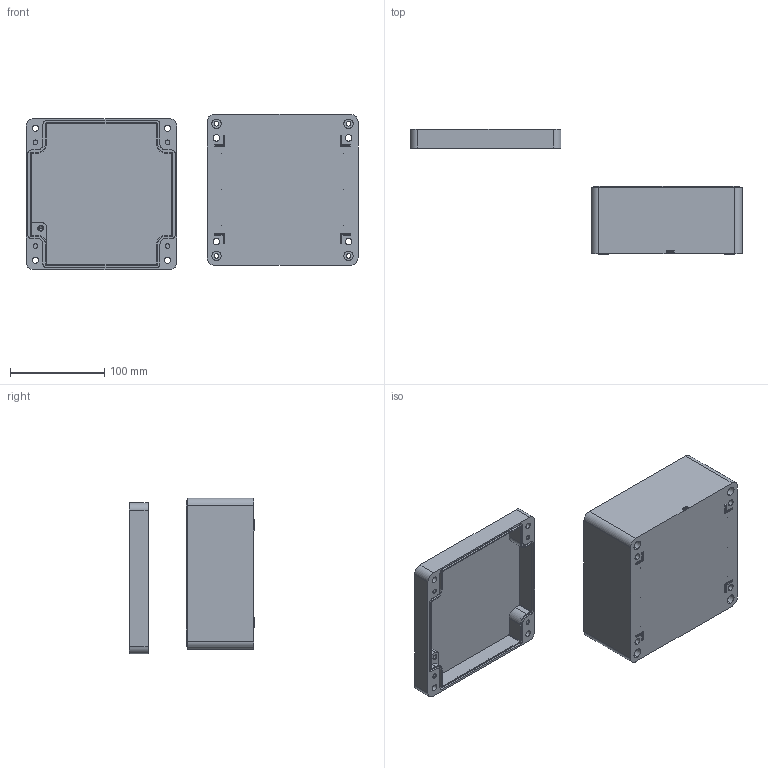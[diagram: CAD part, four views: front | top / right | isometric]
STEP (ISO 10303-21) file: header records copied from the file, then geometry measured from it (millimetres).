
FILE_DESCRIPTION (( 'STEP AP203' ), '1' );
FILE_NAME ('ZX-AL-161609_装配体.STEP', '2022-01-24T09:00:06', ( '微软用户' ), ( '微软中国' ), 'SwSTEP 2.0', 'SolidWorks 2020', '' );
FILE_SCHEMA (( 'CONFIG_CONTROL_DESIGN' ));
Length unit declared in the file: millimetre
Products named in the file (3): ZX-AL-161609_蚾饜极; ZX-AL-161609_奻; ZX-AL-161609_狟
Assembly tree (2 placements, depth 2):
  ZX-AL-161609_蚾饜极
    ZX-AL-161609_狟
    ZX-AL-161609_奻
Bounding box: 351.87 x 132.9 x 164.71 mm (x, y, z)
Volume: 499624.8 mm3; surface area: 232068.3 mm2
Topology: 2 solids, 2 shells, 665 faces, 1794 edges, 1169 vertices
Faces by surface type: plane 342, cylinder 164, bspline 123, cone 36
Entity records: 26603 total; most frequent: CARTESIAN_POINT 10270, ORIENTED_EDGE 3560, DIRECTION 2906, EDGE_CURVE 1780, VECTOR 1208, LINE 1208, VERTEX_POINT 1169, AXIS2_PLACEMENT_3D 849
